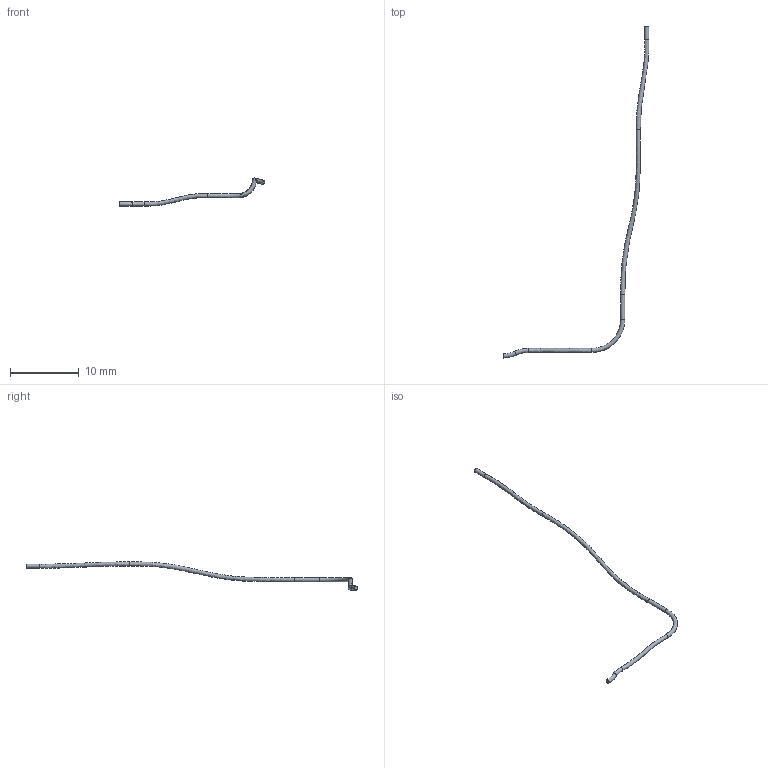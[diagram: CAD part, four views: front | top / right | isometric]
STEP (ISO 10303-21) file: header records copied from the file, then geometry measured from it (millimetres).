
FILE_DESCRIPTION(('FreeCAD Model'),'2;1');
FILE_NAME('Open CASCADE Shape Model','2026-11-12T12:42:17',('FreeCAD'),( 'FreeCAD'),'Open CASCADE STEP processor 7.8','FreeCAD','Unknown');
FILE_SCHEMA(('AUTOMOTIVE_DESIGN { 1 0 10303 214 1 1 1 1 }'));
Length unit declared in the file: millimetre
Products named in the file (1): Open CASCADE STEP translator 7.8 9
Bounding box: 21.23 x 48.34 x 4.1 mm (x, y, z)
Volume: 17.9 mm3; surface area: 120.1 mm2
Topology: 1 solids, 1 shells, 10 faces, 17 edges, 9 vertices
Faces by surface type: bspline 3, torus 3, cylinder 2, plane 2
Full cylindrical faces by diameter (mm): 0.6 x2
Entity records: 2756 total; most frequent: CARTESIAN_POINT 2576, DIRECTION 36, ORIENTED_EDGE 34, AXIS2_PLACEMENT_3D 17, EDGE_CURVE 17, ADVANCED_FACE 10, FACE_BOUND 10, EDGE_LOOP 10
